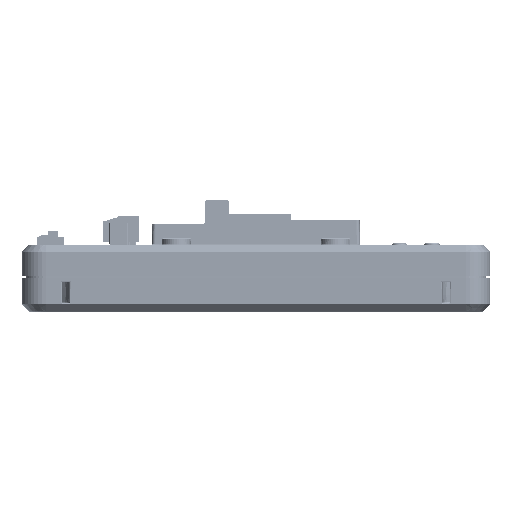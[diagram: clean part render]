
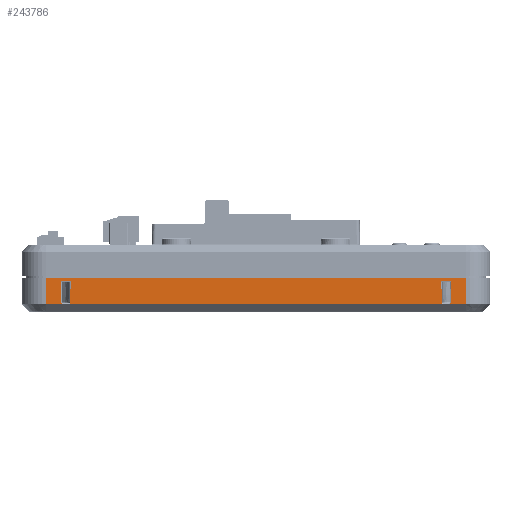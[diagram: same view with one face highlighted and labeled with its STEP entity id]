
A CAD part, front view. The second image highlights one B-rep face of the part: STEP entity #243786.
In plain terms, the highlighted planar face has unit normal (0, -1, 0).
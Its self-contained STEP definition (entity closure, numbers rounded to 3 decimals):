
#2258=ELLIPSE('',#257865,0.382,0.381);
#2259=ELLIPSE('',#257866,0.382,0.381);
#2260=ELLIPSE('',#257867,0.382,0.381);
#2261=ELLIPSE('',#257868,0.382,0.381);
#14963=FACE_BOUND('',#30177,.T.);
#14964=FACE_BOUND('',#30178,.T.);
#16007=FACE_OUTER_BOUND('',#30176,.T.);
#30176=EDGE_LOOP('',(#156090,#156091,#156092,#156093));
#30177=EDGE_LOOP('',(#156094,#156095,#156096,#156097,#156098,#156099));
#30178=EDGE_LOOP('',(#156100,#156101,#156102,#156103,#156104,#156105));
#46535=LINE('',#348763,#72353);
#46538=LINE('',#348776,#72356);
#46543=LINE('',#348795,#72361);
#46544=LINE('',#348796,#72362);
#46545=LINE('',#348799,#72363);
#46546=LINE('',#348803,#72364);
#46547=LINE('',#348807,#72365);
#46548=LINE('',#348808,#72366);
#46549=LINE('',#348811,#72367);
#46550=LINE('',#348815,#72368);
#46551=LINE('',#348819,#72369);
#46552=LINE('',#348820,#72370);
#72353=VECTOR('',#279566,1000.);
#72356=VECTOR('',#279579,1000.);
#72361=VECTOR('',#279594,1000.);
#72362=VECTOR('',#279595,1000.);
#72363=VECTOR('',#279596,1000.);
#72364=VECTOR('',#279599,1000.);
#72365=VECTOR('',#279602,1000.);
#72366=VECTOR('',#279603,1000.);
#72367=VECTOR('',#279604,1000.);
#72368=VECTOR('',#279607,1000.);
#72369=VECTOR('',#279610,1000.);
#72370=VECTOR('',#279611,1000.);
#98586=VERTEX_POINT('',#348758);
#98587=VERTEX_POINT('',#348762);
#98589=VERTEX_POINT('',#348767);
#98601=VERTEX_POINT('',#348794);
#98602=VERTEX_POINT('',#348797);
#98603=VERTEX_POINT('',#348798);
#98604=VERTEX_POINT('',#348800);
#98605=VERTEX_POINT('',#348802);
#98606=VERTEX_POINT('',#348804);
#98607=VERTEX_POINT('',#348806);
#98608=VERTEX_POINT('',#348809);
#98609=VERTEX_POINT('',#348810);
#98610=VERTEX_POINT('',#348812);
#98611=VERTEX_POINT('',#348814);
#98612=VERTEX_POINT('',#348816);
#98613=VERTEX_POINT('',#348818);
#120571=EDGE_CURVE('',#98586,#98587,#46535,.T.);
#120578=EDGE_CURVE('',#98587,#98589,#46538,.T.);
#120587=EDGE_CURVE('',#98601,#98589,#46543,.T.);
#120588=EDGE_CURVE('',#98586,#98601,#46544,.T.);
#120589=EDGE_CURVE('',#98602,#98603,#46545,.T.);
#120590=EDGE_CURVE('',#98604,#98602,#2258,.T.);
#120591=EDGE_CURVE('',#98605,#98604,#46546,.T.);
#120592=EDGE_CURVE('',#98606,#98605,#2259,.T.);
#120593=EDGE_CURVE('',#98607,#98606,#46547,.T.);
#120594=EDGE_CURVE('',#98607,#98603,#46548,.T.);
#120595=EDGE_CURVE('',#98608,#98609,#46549,.T.);
#120596=EDGE_CURVE('',#98610,#98608,#2260,.T.);
#120597=EDGE_CURVE('',#98611,#98610,#46550,.T.);
#120598=EDGE_CURVE('',#98612,#98611,#2261,.T.);
#120599=EDGE_CURVE('',#98613,#98612,#46551,.T.);
#120600=EDGE_CURVE('',#98613,#98609,#46552,.T.);
#156090=ORIENTED_EDGE('',*,*,#120587,.T.);
#156091=ORIENTED_EDGE('',*,*,#120578,.F.);
#156092=ORIENTED_EDGE('',*,*,#120571,.F.);
#156093=ORIENTED_EDGE('',*,*,#120588,.T.);
#156094=ORIENTED_EDGE('',*,*,#120589,.F.);
#156095=ORIENTED_EDGE('',*,*,#120590,.F.);
#156096=ORIENTED_EDGE('',*,*,#120591,.F.);
#156097=ORIENTED_EDGE('',*,*,#120592,.F.);
#156098=ORIENTED_EDGE('',*,*,#120593,.F.);
#156099=ORIENTED_EDGE('',*,*,#120594,.T.);
#156100=ORIENTED_EDGE('',*,*,#120595,.F.);
#156101=ORIENTED_EDGE('',*,*,#120596,.F.);
#156102=ORIENTED_EDGE('',*,*,#120597,.F.);
#156103=ORIENTED_EDGE('',*,*,#120598,.F.);
#156104=ORIENTED_EDGE('',*,*,#120599,.F.);
#156105=ORIENTED_EDGE('',*,*,#120600,.T.);
#223760=PLANE('',#257864);
#243786=ADVANCED_FACE('',(#16007,#14963,#14964),#223760,.T.);
#257864=AXIS2_PLACEMENT_3D('',#348793,#279592,#279593);
#257865=AXIS2_PLACEMENT_3D('',#348801,#279597,#279598);
#257866=AXIS2_PLACEMENT_3D('',#348805,#279600,#279601);
#257867=AXIS2_PLACEMENT_3D('',#348813,#279605,#279606);
#257868=AXIS2_PLACEMENT_3D('',#348817,#279608,#279609);
#279566=DIRECTION('',(0.,0.,1.));
#279579=DIRECTION('',(1.,0.,0.));
#279592=DIRECTION('center_axis',(0.,-1.,0.));
#279593=DIRECTION('ref_axis',(0.,0.,-1.));
#279594=DIRECTION('',(0.,0.,1.));
#279595=DIRECTION('',(1.,0.,0.));
#279596=DIRECTION('',(0.009,0.,1.));
#279597=DIRECTION('center_axis',(0.,-1.,
0.));
#279598=DIRECTION('ref_axis',(0.703,0.,-0.711));
#279599=DIRECTION('',(1.,0.,0.));
#279600=DIRECTION('center_axis',(0.,-1.,
0.));
#279601=DIRECTION('ref_axis',(-0.703,0.,-0.711));
#279602=DIRECTION('',(0.009,0.,-1.));
#279603=DIRECTION('',(1.,0.,0.));
#279604=DIRECTION('',(0.009,0.,1.));
#279605=DIRECTION('center_axis',(0.,-1.,
0.));
#279606=DIRECTION('ref_axis',(0.703,0.,-0.711));
#279607=DIRECTION('',(1.,0.,0.));
#279608=DIRECTION('center_axis',(0.,-1.,
0.));
#279609=DIRECTION('ref_axis',(-0.703,0.,-0.711));
#279610=DIRECTION('',(0.009,0.,-1.));
#279611=DIRECTION('',(1.,0.,0.));
#348758=CARTESIAN_POINT('',(-65.456,-71.59,-7.261));
#348762=CARTESIAN_POINT('',(-65.456,-71.59,0.692));
#348763=CARTESIAN_POINT('',(-65.456,-71.59,-7.261));
#348767=CARTESIAN_POINT('',(65.456,-71.59,0.692));
#348776=CARTESIAN_POINT('',(-65.456,-71.59,0.692));
#348793=CARTESIAN_POINT('Origin',(-65.456,-71.59,0.692));
#348794=CARTESIAN_POINT('',(65.456,-71.59,-7.261));
#348795=CARTESIAN_POINT('',(65.456,-71.59,-7.261));
#348796=CARTESIAN_POINT('',(-65.456,-71.59,-7.261));
#348797=CARTESIAN_POINT('',(60.754,-71.59,-6.855));
#348798=CARTESIAN_POINT('',(60.812,-71.59,-0.255));
#348799=CARTESIAN_POINT('',(60.754,-71.59,-6.855));
#348800=CARTESIAN_POINT('',(60.374,-71.59,-7.232));
#348801=CARTESIAN_POINT('Origin',(60.373,-71.59,-6.85));
#348802=CARTESIAN_POINT('',(58.346,-71.59,-7.232));
#348803=CARTESIAN_POINT('',(58.346,-71.59,-7.232));
#348804=CARTESIAN_POINT('',(57.966,-71.59,-6.855));
#348805=CARTESIAN_POINT('Origin',(58.347,-71.59,-6.85));
#348806=CARTESIAN_POINT('',(57.908,-71.59,-0.255));
#348807=CARTESIAN_POINT('',(57.908,-71.59,-0.255));
#348808=CARTESIAN_POINT('',(57.908,-71.59,-0.255));
#348809=CARTESIAN_POINT('',(-57.966,-71.59,-6.855));
#348810=CARTESIAN_POINT('',(-57.908,-71.59,-0.255));
#348811=CARTESIAN_POINT('',(-57.966,-71.59,-6.855));
#348812=CARTESIAN_POINT('',(-58.346,-71.59,-7.232));
#348813=CARTESIAN_POINT('Origin',(-58.347,-71.59,-6.85));
#348814=CARTESIAN_POINT('',(-60.374,-71.59,-7.232));
#348815=CARTESIAN_POINT('',(-60.374,-71.59,-7.232));
#348816=CARTESIAN_POINT('',(-60.754,-71.59,-6.855));
#348817=CARTESIAN_POINT('Origin',(-60.373,-71.59,-6.85));
#348818=CARTESIAN_POINT('',(-60.812,-71.59,-0.255));
#348819=CARTESIAN_POINT('',(-60.812,-71.59,-0.255));
#348820=CARTESIAN_POINT('',(-60.812,-71.59,-0.255));
